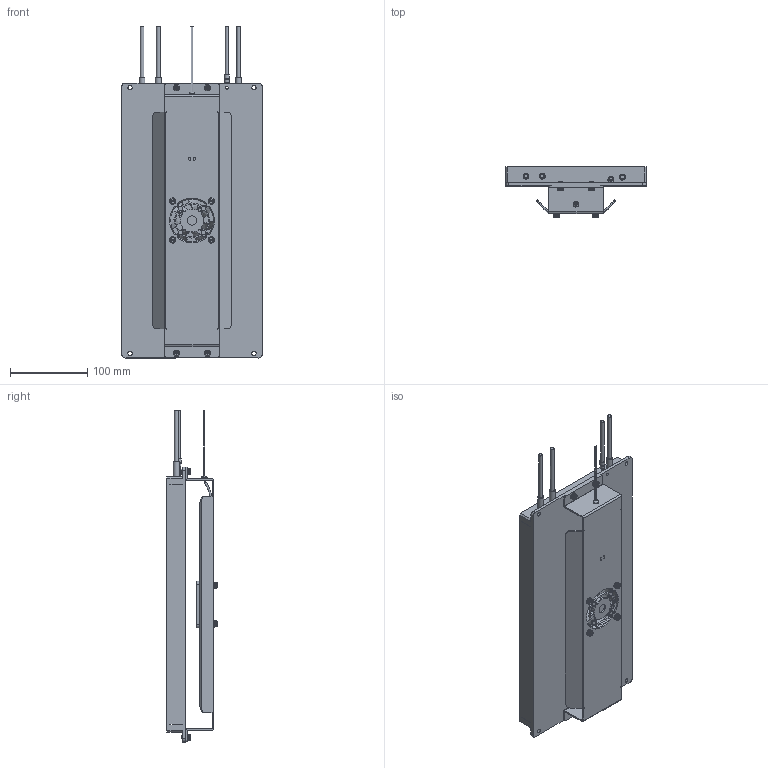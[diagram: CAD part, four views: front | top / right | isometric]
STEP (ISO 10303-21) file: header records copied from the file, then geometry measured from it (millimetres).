
FILE_DESCRIPTION(/* description */ (''),/* implementation_level */ '2;1');
FILE_NAME(/* name */ 'G:\06_WPT_코일패드 고객용 (외함만)\[ RX COIL PAD ]\[FAN 있는 버전_2024.05.30]\TWC-2500W-A-RXCOIL-H24.5-FAN.stp',/* time_stamp */ '2024-05-31T13:50:04+09:00',/* author */ ('jjang'),/* organization */ (''),/* preprocessor_version */ 'ST-DEVELOPER v18.1',/* originating_system */ 'Autodesk Inventor 2021',/* authorisation */ '');
FILE_SCHEMA (('AUTOMOTIVE_DESIGN { 1 0 10303 214 3 1 1 }'));
Products named in the file (1): $2024.05.30_RX 코일패드 팬 버전_
TWC-2000W-SEP-RXCOIL_Shrinkwrap_1
Bounding box: 181 x 65.23 x 428.7 mm (x, y, z)
Volume: 771300.3 mm3; surface area: 380335.2 mm2
Topology: 5 solids, 10 shells, 2285 faces, 6135 edges, 4096 vertices
Faces by surface type: plane 1272, bspline 603, cylinder 319, torus 78, sphere 7, cone 6
Full cylindrical faces by diameter (mm): 0.9 x2, 1.2 x2, 3 x1, 3.6 x1, 4 x25, 4.2 x1, 4.3 x5, 4.9 x4, 5.2 x4, 5.4 x4, 5.59 x3, 5.6 x1, 6 x1, 6.5 x1, 7.084 x8, 7.2 x2, 7.6 x3, 7.8 x8, 10 x1, 12 x1, 22.004 x1, 25.4 x1, 29.055 x1, 55.4 x1
Entity records: 81653 total; most frequent: CARTESIAN_POINT 25208, ORIENTED_EDGE 12248, DIRECTION 9391, EDGE_CURVE 6129, VERTEX_POINT 4096, LINE 3721, VECTOR 3721, AXIS2_PLACEMENT_3D 2835
